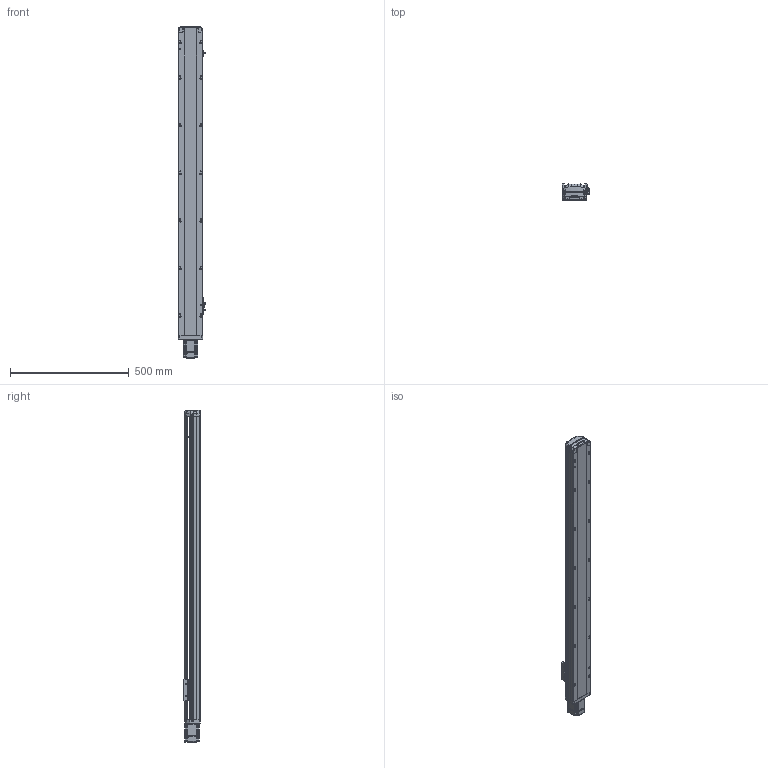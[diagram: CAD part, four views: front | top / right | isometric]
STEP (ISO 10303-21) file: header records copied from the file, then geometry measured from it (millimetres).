
FILE_DESCRIPTION (( 'STEP AP214' ), '1' );
FILE_NAME ('RTH10-XX-1050-E-M20-C4.STEP', '2025-10-24T10:49:08', ( '' ), ( '' ), 'SwSTEP 2.0', 'SolidWorks 2018', '' );
FILE_SCHEMA (( 'AUTOMOTIVE_DESIGN' ));
Length unit declared in the file: millimetre
Products named in the file (9): N_RTH12-E-007P-奻裔^RTH10-XX-XX-E-M20-C4ㄗ源最宒ㄘ; RTH10-XX-1050-E-M20-C4; N_OMRON EE-SX672 換覜ん^RTH10-XX-XX-E-M20-C4ㄗ源最宒ㄘ; N_RTH12-E-011P-臏倰第菁釱^RTH10-XX-XX-E-M20-C4ㄗ源最宒ㄘ; N_RTH12-GY-001P^RTH10-XX-XX-E-M20-C4（方程式）; N_RTH12-E-008-M20电机板^RTH10-XX-XX-E-M20-C4（方程式）; N_200W-1^RTH10-XX-XX-E-M20-C4（方程式）; N_RTH13-L-012感应片外置^RTH10-XX-XX-E-M20-C4（方程式）; N_RTH12-GY-004-滑座^RTH10-XX-XX-E-M20-C4（方程式）
Assembly tree (10 placements, depth 2):
  RTH10-XX-1050-E-M20-C4
    N_RTH12-E-011P-臏倰第菁釱^RTH10-XX-XX-E-M20-C4ㄗ源最宒ㄘ
    N_RTH13-L-012感应片外置^RTH10-XX-XX-E-M20-C4（方程式）
    N_OMRON EE-SX672 換覜ん^RTH10-XX-XX-E-M20-C4ㄗ源最宒ㄘ  x3
    N_RTH12-E-007P-奻裔^RTH10-XX-XX-E-M20-C4ㄗ源最宒ㄘ
    N_RTH12-GY-001P^RTH10-XX-XX-E-M20-C4（方程式）
    N_RTH12-GY-004-滑座^RTH10-XX-XX-E-M20-C4（方程式）
    N_200W-1^RTH10-XX-XX-E-M20-C4（方程式）
    N_RTH12-E-008-M20电机板^RTH10-XX-XX-E-M20-C4（方程式）
Bounding box: 116.5 x 70 x 1395.14 mm (x, y, z)
Volume: 5269184.8 mm3; surface area: 805872.7 mm2
Topology: 9 solids, 11 shells, 2048 faces, 5716 edges, 3754 vertices
Faces by surface type: plane 1016, cylinder 525, bspline 472, cone 33, torus 2
Entity records: 62070 total; most frequent: CARTESIAN_POINT 23962, ORIENTED_EDGE 8512, DIRECTION 6672, EDGE_CURVE 4262, VERTEX_POINT 2798, LINE 2280, VECTOR 2280, AXIS2_PLACEMENT_3D 2196
